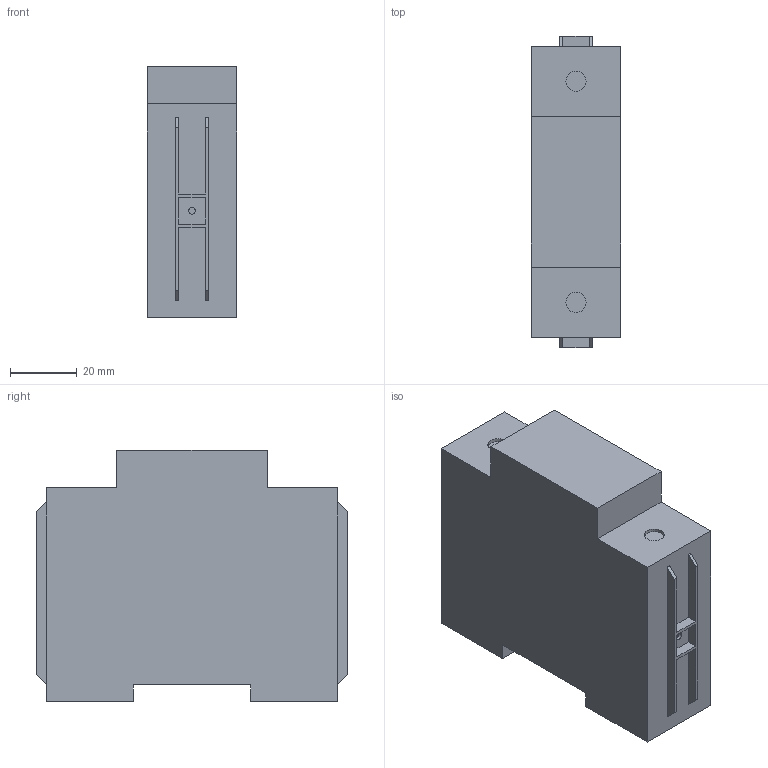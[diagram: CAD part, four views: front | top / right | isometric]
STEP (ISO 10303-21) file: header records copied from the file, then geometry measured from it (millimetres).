
FILE_DESCRIPTION(('STEP AP214'),'1');
FILE_NAME('pole_add_022216_ew.stp','2017-05-11T13:37:48',('TraceParts'),('TraceParts S.A.'),'Spatial InterOp 3D',' ',' ');
FILE_SCHEMA(('automotive_design'));
Length unit declared in the file: millimetre
Products named in the file (1): pole_add_022216_ew
Bounding box: 26.8 x 93 x 75 mm (x, y, z)
Volume: 158228 mm3; surface area: 22181.8 mm2
Topology: 1 solids, 1 shells, 62 faces, 156 edges, 104 vertices
Faces by surface type: plane 54, cylinder 8
Entity records: 1900 total; most frequent: CARTESIAN_POINT 323, ORIENTED_EDGE 312, DIRECTION 298, EDGE_CURVE 156, LINE 140, VECTOR 140, VERTEX_POINT 104, AXIS2_PLACEMENT_3D 79
